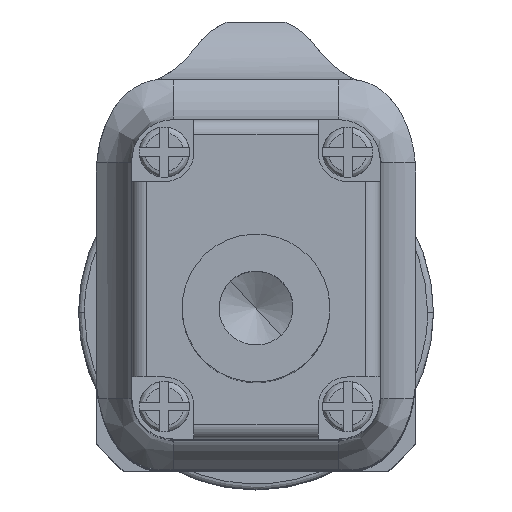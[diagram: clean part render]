
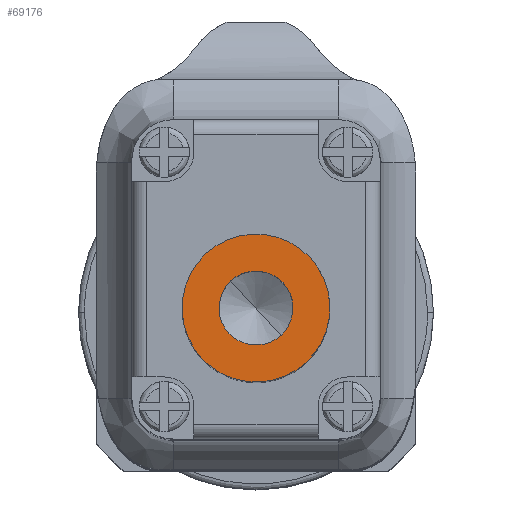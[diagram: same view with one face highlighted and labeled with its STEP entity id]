
A CAD part, top view. The second image highlights one B-rep face of the part: STEP entity #69176.
In plain terms, the highlighted planar face has unit normal (0, 0, 1) as drawn and (0, 0, -1) by its records, which use the part's own axes.
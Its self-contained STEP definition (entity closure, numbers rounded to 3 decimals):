
#1728 = CARTESIAN_POINT ( 'NONE',  ( 0., 0., 0. ) ) ;
#3715 = EDGE_CURVE ( 'NONE', #11426, #4316, #68770, .T. ) ;
#4299 = CARTESIAN_POINT ( 'NONE',  ( 0., 0., 0. ) ) ;
#4316 = VERTEX_POINT ( 'NONE', #24156 ) ;
#5026 = CARTESIAN_POINT ( 'NONE',  ( 0., 0., 0. ) ) ;
#6086 = ORIENTED_EDGE ( 'NONE', *, *, #3715, .F. ) ;
#6684 = EDGE_CURVE ( 'NONE', #60312, #10731, #34202, .T. ) ;
#7049 = AXIS2_PLACEMENT_3D ( 'NONE', #5026, #10778, #56519 ) ;
#9915 = ORIENTED_EDGE ( 'NONE', *, *, #22341, .F. ) ;
#10731 = VERTEX_POINT ( 'NONE', #65212 ) ;
#10778 = DIRECTION ( 'NONE',  ( 0., 0., -1. ) ) ;
#11426 = VERTEX_POINT ( 'NONE', #54683 ) ;
#13134 = DIRECTION ( 'NONE',  ( 0., 0., 1. ) ) ;
#15235 = CARTESIAN_POINT ( 'NONE',  ( 0., 0., 0. ) ) ;
#18153 = DIRECTION ( 'NONE',  ( 0., 0., 1. ) ) ;
#18839 = DIRECTION ( 'NONE',  ( -1., 0., 0. ) ) ;
#20934 = PLANE ( 'NONE',  #31179 ) ;
#22341 = EDGE_CURVE ( 'NONE', #4316, #11426, #41790, .T. ) ;
#24156 = CARTESIAN_POINT ( 'NONE',  ( -1.25, 0., 0. ) ) ;
#31179 = AXIS2_PLACEMENT_3D ( 'NONE', #15235, #49286, #60734 ) ;
#34202 = CIRCLE ( 'NONE', #40505, 2.5 ) ;
#40505 = AXIS2_PLACEMENT_3D ( 'NONE', #1728, #18153, #69615 ) ;
#40544 = FACE_OUTER_BOUND ( 'NONE', #46411, .T. ) ;
#40837 = AXIS2_PLACEMENT_3D ( 'NONE', #41482, #13134, #18839 ) ;
#41482 = CARTESIAN_POINT ( 'NONE',  ( 0., 0., 0. ) ) ;
#41790 = CIRCLE ( 'NONE', #7049, 1.25 ) ;
#42848 = ORIENTED_EDGE ( 'NONE', *, *, #6684, .F. ) ;
#46411 = EDGE_LOOP ( 'NONE', ( #62345, #42848 ) ) ;
#49286 = DIRECTION ( 'NONE',  ( 0., 0., 1. ) ) ;
#50028 = AXIS2_PLACEMENT_3D ( 'NONE', #4299, #72660, #61754 ) ;
#51244 = FACE_BOUND ( 'NONE', #55744, .T. ) ;
#54122 = CIRCLE ( 'NONE', #40837, 2.5 ) ;
#54683 = CARTESIAN_POINT ( 'NONE',  ( 1.25, 0., 0. ) ) ;
#55744 = EDGE_LOOP ( 'NONE', ( #9915, #6086 ) ) ;
#56519 = DIRECTION ( 'NONE',  ( -1., 0., 0. ) ) ;
#60131 = CARTESIAN_POINT ( 'NONE',  ( 2.5, 0., 0. ) ) ;
#60312 = VERTEX_POINT ( 'NONE', #60131 ) ;
#60734 = DIRECTION ( 'NONE',  ( 1., 0., 0. ) ) ;
#61754 = DIRECTION ( 'NONE',  ( -1., 0., 0. ) ) ;
#62345 = ORIENTED_EDGE ( 'NONE', *, *, #63290, .F. ) ;
#63290 = EDGE_CURVE ( 'NONE', #10731, #60312, #54122, .T. ) ;
#65212 = CARTESIAN_POINT ( 'NONE',  ( -2.5, 0., 0. ) ) ;
#68770 = CIRCLE ( 'NONE', #50028, 1.25 ) ;
#69176 = ADVANCED_FACE ( 'NONE', ( #40544, #51244 ), #20934, .F. ) ;
#69615 = DIRECTION ( 'NONE',  ( -1., 0., 0. ) ) ;
#72660 = DIRECTION ( 'NONE',  ( 0., 0., -1. ) ) ;
